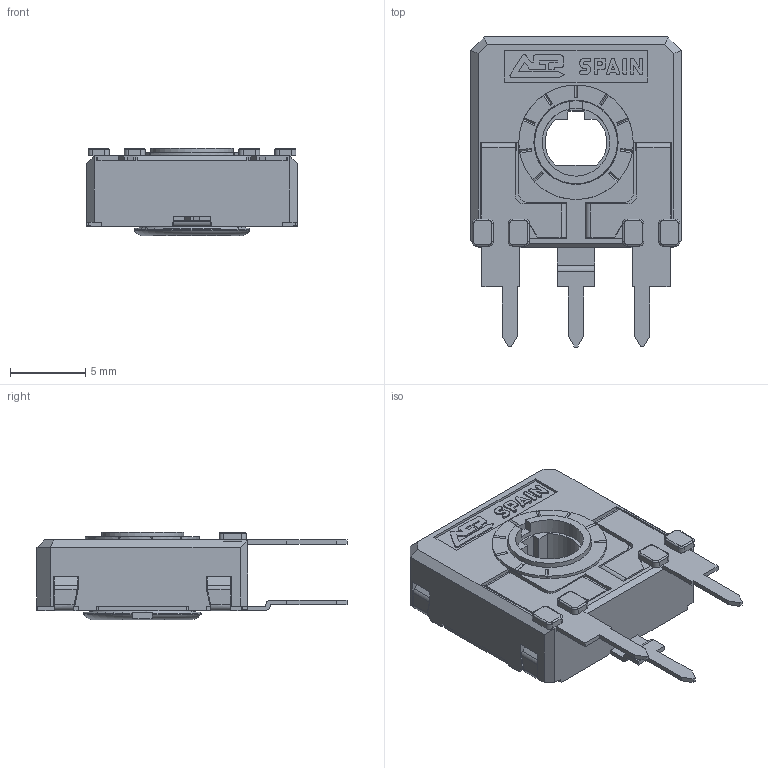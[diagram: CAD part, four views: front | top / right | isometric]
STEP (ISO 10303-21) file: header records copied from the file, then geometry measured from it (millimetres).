
FILE_DESCRIPTION(/* description */ (''),/* implementation_level */ '2;1');
FILE_NAME(/* name */ '\\SERVERACP\intercambio\Ignacio Santa Cecilia\Nueva WEB 2025\CA14 - CE14\CA14TH4.stp',/* time_stamp */ '2025-06-13T11:24:13+02:00',/* author */ ('CEM'),/* organization */ (''),/* preprocessor_version */ 'ST-DEVELOPER v17',/* originating_system */ 'Autodesk Inventor 2018',/* authorisation */ '');
FILE_SCHEMA (('AUTOMOTIVE_DESIGN { 1 0 10303 214 3 1 1 }'));
Length unit declared in the file: millimetre
Products named in the file (1): CARCASA CA14 PGA
Bounding box: 14 x 20.6 x 5.8 mm (x, y, z)
Volume: 527.7 mm3; surface area: 1448.9 mm2
Topology: 1 solids, 1 shells, 669 faces, 1889 edges, 1216 vertices
Faces by surface type: plane 497, cylinder 135, torus 23, bspline 8, cone 6
Full cylindrical faces by diameter (mm): 4.5 x1, 5.5 x1, 5.6 x1, 5.752 x1, 6.8 x1, 7.6 x1
Entity records: 21840 total; most frequent: CARTESIAN_POINT 4072, ORIENTED_EDGE 3778, DIRECTION 3523, EDGE_CURVE 1889, LINE 1489, VECTOR 1489, VERTEX_POINT 1216, AXIS2_PLACEMENT_3D 1017
